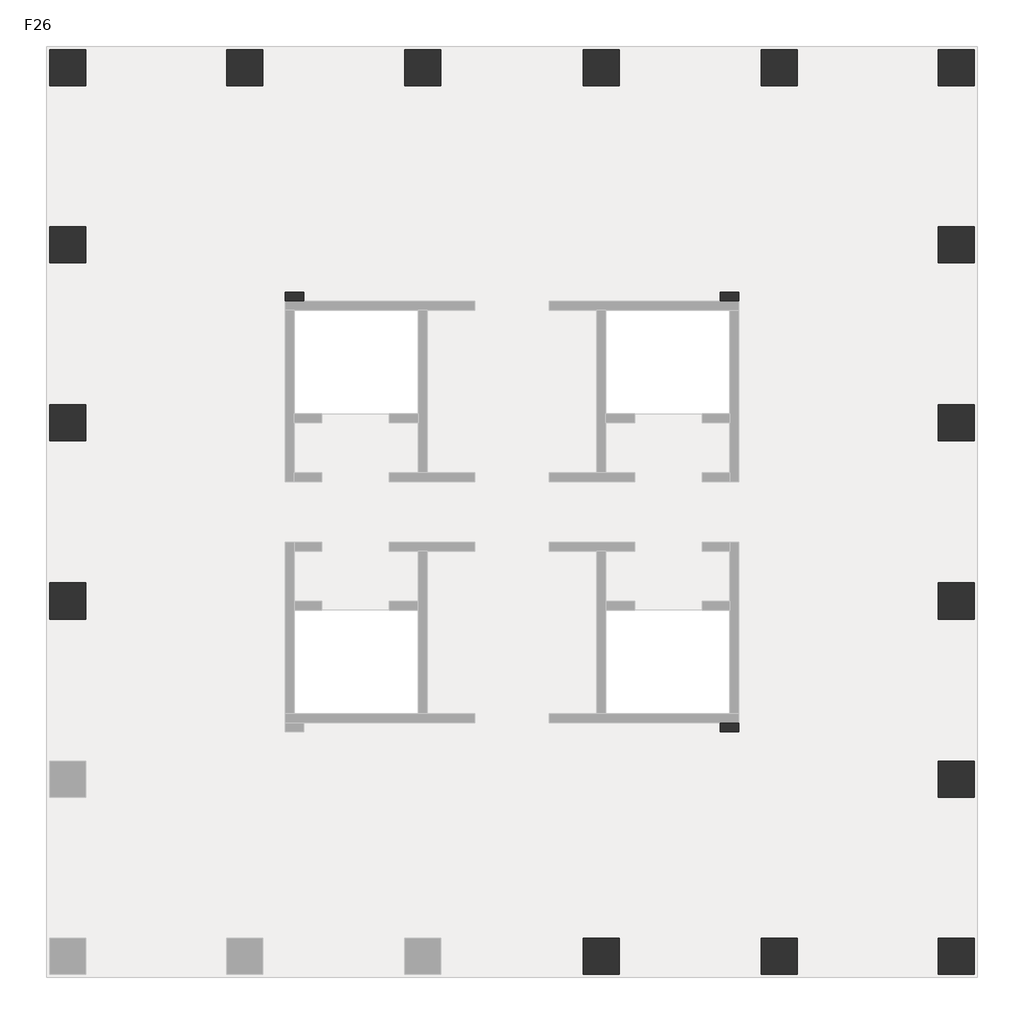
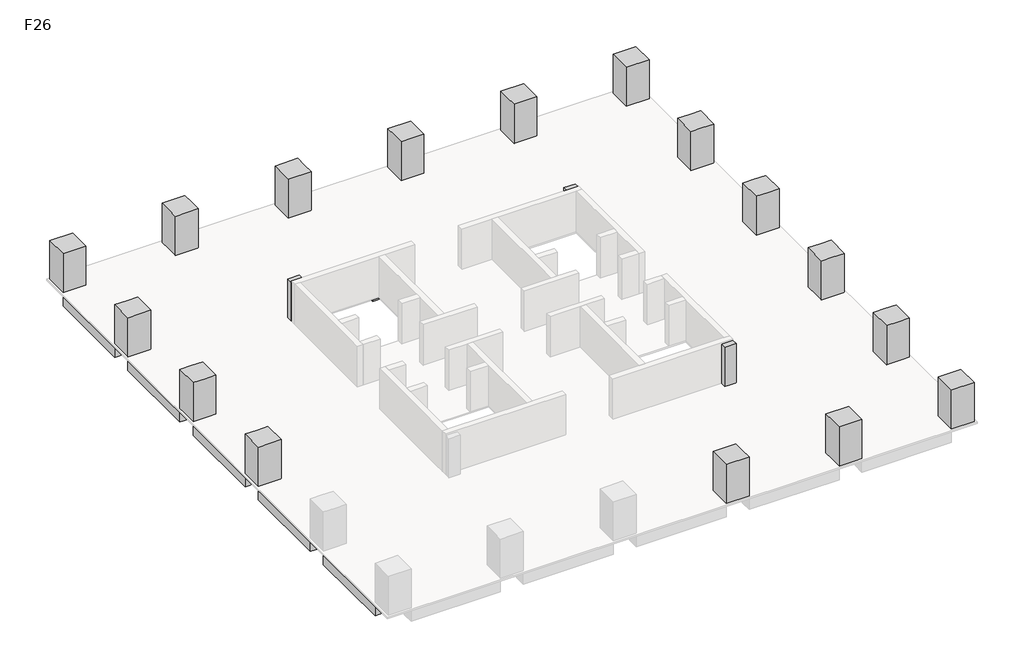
# One storey, part 2 of 2: 19 columns, 17 beams.
"""IFC4 building model written with IfcOpenShell, lengths in millimetres."""

from ifc_helpers import new_model, si_unit, frame, origin, place, context, project, spatial, polyline, outline, extrude, faceted_brep, element, save

model = new_model("IFC4")

# Units and contexts
model_context = context("Model", 3, world=origin())
ifc_project = project(units=[si_unit("LENGTHUNIT", "METRE", prefix="MILLI")], contexts=[model_context])

# Site, building, storey
site = spatial("IfcSite", under=ifc_project)
building = spatial("IfcBuilding", under=site)
storey = spatial("IfcBuildingStorey", under=building, Name="F26", Elevation=96000.0)

# Beams
placement = place(None, origin())
element("IfcBeam", 1, ObjectType="混凝土 - 矩形梁 : KL(5)-800x1000", at=placement, inside=storey, context=model_context, shape_type="SweptSolid", body=[
    extrude(outline(polyline([(25327.3257831, 27051.0498658), (25327.3257831, 26251.0498658), (19077.3257831, 26251.0498658), (19077.3257831, 27051.0498658), (25327.3257831, 27051.0498658)])), frame((0.0, 0.0, 95000.0), z_axis=(0.0, 0.0, 1.0), x_axis=(1.0, 0.0, 0.0)), (0.0, 0.0, 1.0), 900.0),
    extrude(outline(polyline([(-12472.6742169, 26251.0498658), (-12472.6742169, 27051.0498658), (-6222.6742169, 27051.0498658), (-6222.6742169, 26251.0498658), (-12472.6742169, 26251.0498658)])), frame((0.0, 0.0, 95000.0), z_axis=(0.0, 0.0, 1.0), x_axis=(1.0, 0.0, 0.0)), (0.0, 0.0, 1.0), 900.0),
    extrude(outline(polyline([(-4622.6742169, 26251.0498658), (-4622.6742169, 27051.0498658), (1677.3257831, 27051.0498658), (1677.3257831, 26251.0498658), (-4622.6742169, 26251.0498658)])), frame((0.0, 0.0, 95000.0), z_axis=(0.0, 0.0, 1.0), x_axis=(1.0, 0.0, 0.0)), (0.0, 0.0, 1.0), 900.0),
    extrude(outline(polyline([(3277.3257831, 26251.0498658), (3277.3257831, 27051.0498658), (9577.3257831, 27051.0498658), (9577.3257831, 26251.0498658), (3277.3257831, 26251.0498658)])), frame((0.0, 0.0, 95000.0), z_axis=(0.0, 0.0, 1.0), x_axis=(1.0, 0.0, 0.0)), (0.0, 0.0, 1.0), 900.0),
    extrude(outline(polyline([(11177.3257831, 26251.0498658), (11177.3257831, 27051.0498658), (17477.3257831, 27051.0498658), (17477.3257831, 26251.0498658), (11177.3257831, 26251.0498658)])), frame((0.0, 0.0, 95000.0), z_axis=(0.0, 0.0, 1.0), x_axis=(1.0, 0.0, 0.0)), (0.0, 0.0, 1.0), 900.0),
])
element("IfcBeam", 2, ObjectType="混凝土 - 矩形梁 : KL(5)-800x1000", at=placement, inside=storey, context=model_context, shape_type="SweptSolid", body=[
    extrude(outline(polyline([(26927.3257831, -12348.9501342), (26127.3257831, -12348.9501342), (26127.3257831, -6098.9501342), (26927.3257831, -6098.9501342), (26927.3257831, -12348.9501342)])), frame((0.0, 0.0, 95000.0), z_axis=(0.0, 0.0, 1.0), x_axis=(1.0, 0.0, 0.0)), (0.0, 0.0, 1.0), 900.0),
    extrude(outline(polyline([(26127.3257831, 25451.0498658), (26927.3257831, 25451.0498658), (26927.3257831, 19201.0498658), (26127.3257831, 19201.0498658), (26127.3257831, 25451.0498658)])), frame((0.0, 0.0, 95000.0), z_axis=(0.0, 0.0, 1.0), x_axis=(1.0, 0.0, 0.0)), (0.0, 0.0, 1.0), 900.0),
    extrude(outline(polyline([(26127.3257831, 17601.0498658), (26927.3257831, 17601.0498658), (26927.3257831, 11301.0498658), (26127.3257831, 11301.0498658), (26127.3257831, 17601.0498658)])), frame((0.0, 0.0, 95000.0), z_axis=(0.0, 0.0, 1.0), x_axis=(1.0, 0.0, 0.0)), (0.0, 0.0, 1.0), 900.0),
    extrude(outline(polyline([(26127.3257831, 9701.0498658), (26927.3257831, 9701.0498658), (26927.3257831, 3401.0498658), (26127.3257831, 3401.0498658), (26127.3257831, 9701.0498658)])), frame((0.0, 0.0, 95000.0), z_axis=(0.0, 0.0, 1.0), x_axis=(1.0, 0.0, 0.0)), (0.0, 0.0, 1.0), 900.0),
    extrude(outline(polyline([(26127.3257831, 1801.0498658), (26927.3257831, 1801.0498658), (26927.3257831, -4498.9501342), (26127.3257831, -4498.9501342), (26127.3257831, 1801.0498658)])), frame((0.0, 0.0, 95000.0), z_axis=(0.0, 0.0, 1.0), x_axis=(1.0, 0.0, 0.0)), (0.0, 0.0, 1.0), 900.0),
])
element("IfcBeam", 3, ObjectType="混凝土 - 矩形梁 : KL(5)-800x1000", at=placement, inside=storey, context=model_context, shape_type="SweptSolid", body=[
    extrude(outline(polyline([(-14072.6742169, 25451.0498658), (-13272.6742169, 25451.0498658), (-13272.6742169, 19201.0498658), (-14072.6742169, 19201.0498658), (-14072.6742169, 25451.0498658)])), frame((0.0, 0.0, 95000.0), z_axis=(0.0, 0.0, 1.0), x_axis=(1.0, 0.0, 0.0)), (0.0, 0.0, 1.0), 900.0),
    extrude(outline(polyline([(-13272.6742169, -12348.9501342), (-14072.6742169, -12348.9501342), (-14072.6742169, -6098.9501342), (-13272.6742169, -6098.9501342), (-13272.6742169, -12348.9501342)])), frame((0.0, 0.0, 95000.0), z_axis=(0.0, 0.0, 1.0), x_axis=(1.0, 0.0, 0.0)), (0.0, 0.0, 1.0), 900.0),
    extrude(outline(polyline([(-14072.6742169, 17601.0498658), (-13272.6742169, 17601.0498658), (-13272.6742169, 11301.0498658), (-14072.6742169, 11301.0498658), (-14072.6742169, 17601.0498658)])), frame((0.0, 0.0, 95000.0), z_axis=(0.0, 0.0, 1.0), x_axis=(1.0, 0.0, 0.0)), (0.0, 0.0, 1.0), 900.0),
    extrude(outline(polyline([(-14072.6742169, 9701.0498658), (-13272.6742169, 9701.0498658), (-13272.6742169, 3401.0498658), (-14072.6742169, 3401.0498658), (-14072.6742169, 9701.0498658)])), frame((0.0, 0.0, 95000.0), z_axis=(0.0, 0.0, 1.0), x_axis=(1.0, 0.0, 0.0)), (0.0, 0.0, 1.0), 900.0),
    extrude(outline(polyline([(-14072.6742169, 1801.0498658), (-13272.6742169, 1801.0498658), (-13272.6742169, -4498.9501342), (-14072.6742169, -4498.9501342), (-14072.6742169, 1801.0498658)])), frame((0.0, 0.0, 95000.0), z_axis=(0.0, 0.0, 1.0), x_axis=(1.0, 0.0, 0.0)), (0.0, 0.0, 1.0), 900.0),
])
element("IfcBeam", 4, ObjectType="混凝土 - 矩形梁 : L1-800x500", at=placement, inside=storey, context=model_context, shape_type="SweptSolid", body=[
    extrude(outline(polyline([(-12472.6742169, 2201.0498658), (-12472.6742169, 3001.0498658), (-3622.6742169, 3001.0498658), (-3622.6742169, 2201.0498658), (-12472.6742169, 2201.0498658)])), frame((0.0, 0.0, 95500.0), z_axis=(0.0, 0.0, 1.0), x_axis=(1.0, 0.0, 0.0)), (0.0, 0.0, 1.0), 400.0),
])
element("IfcBeam", 5, ObjectType="混凝土 - 矩形梁 : L1-800x500", at=placement, inside=storey, context=model_context, shape_type="SweptSolid", body=[
    extrude(outline(polyline([(-12472.6742169, 10101.0498658), (-12472.6742169, 10901.0498658), (-3622.6742169, 10901.0498658), (-3622.6742169, 10101.0498658), (-12472.6742169, 10101.0498658)])), frame((0.0, 0.0, 95500.0), z_axis=(0.0, 0.0, 1.0), x_axis=(1.0, 0.0, 0.0)), (0.0, 0.0, 1.0), 400.0),
])
element("IfcBeam", 6, ObjectType="混凝土 - 矩形梁 : L1-800x500", at=placement, inside=storey, context=model_context, shape_type="Brep", body=[
    faceted_brep([(-12472.6742169, 17789.85471, 95500.0), (-3622.6742169, 15588.3621727, 95500.0), (-3622.6742169, 15588.3621727, 95900.0), (-12472.6742169, 17789.85471, 95900.0), (-3173.6696907, 16301.0498658, 95500.0), (-3622.6742169, 16301.0498658, 95500.0), (-3622.6742169, 15901.0498658, 95500.0), (-12472.6742169, 18614.2350714, 95500.0), (-3746.9473979, 16443.6562607, 95500.0), (-12472.6742169, 18614.2350714, 95900.0), (-3746.9473979, 16443.6562607, 95900.0), (-3173.6696907, 16301.0498658, 95900.0), (-3622.6742169, 16301.0498658, 95900.0)], [[[0, 1, 2, 3]], [[4, 5, 6, 1, 0, 7, 8]], [[4, 8, 7, 9, 10, 11]], [[6, 5, 12, 2, 1]], [[5, 4, 11, 12]], [[7, 0, 3, 9]], [[3, 2, 12, 11, 10, 9]]]),
])
element("IfcBeam", 7, ObjectType="混凝土 - 矩形梁 : L1-800x500", at=placement, inside=storey, context=model_context, shape_type="SweptSolid", body=[
    extrude(outline(polyline([(-3173.6696907, 16301.0498658), (-3746.9473979, 16443.6562607), (-5661.5624638, 25451.0498658), (-4843.6893517, 25451.0498658), (-2898.7618154, 16301.0498658), (-3173.6696907, 16301.0498658)])), frame((0.0, 0.0, 95500.0), z_axis=(0.0, 0.0, 1.0), x_axis=(1.0, 0.0, 0.0)), (0.0, 0.0, 1.0), 400.0),
])
element("IfcBeam", 8, ObjectType="混凝土 - 矩形梁 : L1-800x500", at=placement, inside=storey, context=model_context, shape_type="SweptSolid", body=[
    extrude(outline(polyline([(2077.3257831, 25451.0498658), (2877.3257831, 25451.0498658), (2877.3257831, 15901.0498658), (2077.3257831, 15901.0498658), (2077.3257831, 25451.0498658)])), frame((0.0, 0.0, 95500.0), z_axis=(0.0, 0.0, 1.0), x_axis=(1.0, 0.0, 0.0)), (0.0, 0.0, 1.0), 400.0),
])
element("IfcBeam", 9, ObjectType="混凝土 - 矩形梁 : L1-800x500", at=placement, inside=storey, context=model_context, shape_type="SweptSolid", body=[
    extrude(outline(polyline([(9977.3257831, 25451.0498658), (10777.3257831, 25451.0498658), (10777.3257831, 15901.0498658), (9977.3257831, 15901.0498658), (9977.3257831, 25451.0498658)])), frame((0.0, 0.0, 95500.0), z_axis=(0.0, 0.0, 1.0), x_axis=(1.0, 0.0, 0.0)), (0.0, 0.0, 1.0), 400.0),
])
element("IfcBeam", 10, ObjectType="混凝土 - 矩形梁 : L1-800x500", at=placement, inside=storey, context=model_context, shape_type="SweptSolid", body=[
    extrude(outline(polyline([(2877.3257831, -12348.9501342), (2077.3257831, -12348.9501342), (2077.3257831, -2798.9501342), (2877.3257831, -2798.9501342), (2877.3257831, -12348.9501342)])), frame((0.0, 0.0, 95500.0), z_axis=(0.0, 0.0, 1.0), x_axis=(1.0, 0.0, 0.0)), (0.0, 0.0, 1.0), 400.0),
])
element("IfcBeam", 11, ObjectType="混凝土 - 矩形梁 : L1-800x500", at=placement, inside=storey, context=model_context, shape_type="SweptSolid", body=[
    extrude(outline(polyline([(10777.3257831, -12348.9501342), (9977.3257831, -12348.9501342), (9977.3257831, -2798.9501342), (10777.3257831, -2798.9501342), (10777.3257831, -12348.9501342)])), frame((0.0, 0.0, 95500.0), z_axis=(0.0, 0.0, 1.0), x_axis=(1.0, 0.0, 0.0)), (0.0, 0.0, 1.0), 400.0),
])
element("IfcBeam", 12, ObjectType="混凝土 - 矩形梁 : L1-800x500", at=placement, inside=storey, context=model_context, shape_type="Brep", body=[
    faceted_brep([(25327.3257831, -4687.7549784, 95500.0), (16477.3257831, -2486.2624411, 95500.0), (16477.3257831, -2486.2624411, 95900.0), (25327.3257831, -4687.7549784, 95900.0), (16028.3212569, -3198.9501342, 95500.0), (16477.3257831, -3198.9501342, 95500.0), (16477.3257831, -2798.9501342, 95500.0), (25327.3257831, -5512.1353397, 95500.0), (16601.5989641, -3341.556529, 95500.0), (25327.3257831, -5512.1353397, 95900.0), (16601.5989641, -3341.556529, 95900.0), (16028.3212569, -3198.9501342, 95900.0), (16477.3257831, -3198.9501342, 95900.0)], [[[0, 1, 2, 3]], [[4, 5, 6, 1, 0, 7, 8]], [[4, 8, 7, 9, 10, 11]], [[6, 5, 12, 2, 1]], [[5, 4, 11, 12]], [[7, 0, 3, 9]], [[3, 2, 12, 11, 10, 9]]]),
])
element("IfcBeam", 13, ObjectType="混凝土 - 矩形梁 : L1-800x500", at=placement, inside=storey, context=model_context, shape_type="SweptSolid", body=[
    extrude(outline(polyline([(16028.3212569, -3198.9501342), (16601.5989641, -3341.556529), (18516.21403, -12348.9501342), (17698.3409179, -12348.9501342), (15753.4133817, -3198.9501342), (16028.3212569, -3198.9501342)])), frame((0.0, 0.0, 95500.0), z_axis=(0.0, 0.0, 1.0), x_axis=(1.0, 0.0, 0.0)), (0.0, 0.0, 1.0), 400.0),
])
element("IfcBeam", 14, ObjectType="混凝土 - 矩形梁 : L1-800x500", at=placement, inside=storey, context=model_context, shape_type="SweptSolid", body=[
    extrude(outline(polyline([(25327.3257831, 3001.0498658), (25327.3257831, 2201.0498658), (16477.3257831, 2201.0498658), (16477.3257831, 3001.0498658), (25327.3257831, 3001.0498658)])), frame((0.0, 0.0, 95500.0), z_axis=(0.0, 0.0, 1.0), x_axis=(1.0, 0.0, 0.0)), (0.0, 0.0, 1.0), 400.0),
])
element("IfcBeam", 15, ObjectType="混凝土 - 矩形梁 : L1-800x500", at=placement, inside=storey, context=model_context, shape_type="SweptSolid", body=[
    extrude(outline(polyline([(25327.3257831, 10901.0498658), (25327.3257831, 10101.0498658), (16477.3257831, 10101.0498658), (16477.3257831, 10901.0498658), (25327.3257831, 10901.0498658)])), frame((0.0, 0.0, 95500.0), z_axis=(0.0, 0.0, 1.0), x_axis=(1.0, 0.0, 0.0)), (0.0, 0.0, 1.0), 400.0),
])
element("IfcBeam", 16, ObjectType="混凝土 - 矩形梁 : L1-800x500", at=placement, inside=storey, context=model_context, shape_type="Brep", body=[
    faceted_brep([(25327.3257831, 18610.6867312, 95500.0), (16590.8993897, 16393.3196262, 95500.0), (16227.3565337, 16301.0498658, 95500.0), (16227.3565337, 16301.0498658, 95900.0), (16590.8993897, 16393.3196262, 95900.0), (25327.3257831, 18610.6867312, 95900.0), (16477.3257831, 16301.0498658, 95500.0), (25327.3257831, 17785.3216299, 95500.0), (16477.3257831, 15539.1287365, 95500.0), (16477.3257831, 15901.0498658, 95500.0), (25327.3257831, 17785.3216299, 95900.0), (16477.3257831, 15539.1287365, 95900.0), (16477.3257831, 16301.0498658, 95900.0)], [[[0, 1, 2, 3, 4, 5]], [[6, 2, 1, 0, 7, 8, 9]], [[8, 7, 10, 11]], [[9, 8, 11, 12, 6]], [[2, 6, 12, 3]], [[7, 0, 5, 10]], [[5, 4, 3, 12, 11, 10]]]),
])
element("IfcBeam", 17, ObjectType="混凝土 - 矩形梁 : L1-800x500", at=placement, inside=storey, context=model_context, shape_type="SweptSolid", body=[
    extrude(outline(polyline([(16590.8993897, 16393.3196262), (16227.3565337, 16301.0498658), (15753.4133817, 16301.0498658), (17698.3409179, 25451.0498658), (18516.21403, 25451.0498658), (16590.8993897, 16393.3196262)])), frame((0.0, 0.0, 95500.0), z_axis=(0.0, 0.0, 1.0), x_axis=(1.0, 0.0, 0.0)), (0.0, 0.0, 1.0), 400.0),
])

# Columns
element("IfcColumn", 18, ObjectType="混凝土 - 矩形 - 柱 : Z1-1600x1600", at=placement, inside=storey, context=model_context, shape_type="SweptSolid", body=[
    extrude(outline(polyline([(-12472.6742169, 27051.0498658), (-12472.6742169, 25451.0498658), (-14072.6742169, 25451.0498658), (-14072.6742169, 27051.0498658), (-12472.6742169, 27051.0498658)])), frame((0.0, 0.0, 96000.0), z_axis=(0.0, 0.0, 1.0), x_axis=(1.0, 0.0, 0.0)), (0.0, 0.0, 1.0), 2900.0),
])
element("IfcColumn", 19, ObjectType="混凝土 - 矩形 - 柱 : Z1-1600x1600", at=placement, inside=storey, context=model_context, shape_type="Brep", body=[
    faceted_brep([(-4622.6742169, 27051.0498658, 96000.0), (-4622.6742169, 25451.0498658, 96000.0), (-6222.6742169, 25451.0498658, 96000.0), (-6222.6742169, 27051.0498658, 96000.0), (-4622.6742169, 27051.0498658, 98000.0), (-4622.6742169, 27051.0498658, 98900.0), (-4622.6742169, 26251.0498658, 98900.0), (-4622.6742169, 25451.0498658, 98900.0), (-6222.6742169, 25451.0498658, 98900.0), (-6222.6742169, 26251.0498658, 98900.0), (-6222.6742169, 27051.0498658, 98900.0), (-6222.6742169, 27051.0498658, 98000.0)], [[[0, 1, 2, 3]], [[1, 0, 4, 5, 6, 7]], [[2, 1, 7, 8]], [[3, 2, 8, 9, 10, 11]], [[0, 3, 11, 10, 5, 4]], [[7, 6, 5, 10, 9, 8]]]),
])
element("IfcColumn", 20, ObjectType="混凝土 - 矩形 - 柱 : Z1-1600x1600", at=placement, inside=storey, context=model_context, shape_type="Brep", body=[
    faceted_brep([(-12472.6742169, 19201.0498658, 96000.0), (-12472.6742169, 17601.0498658, 96000.0), (-14072.6742169, 17601.0498658, 96000.0), (-14072.6742169, 19201.0498658, 96000.0), (-12472.6742169, 19201.0498658, 98900.0), (-12472.6742169, 17601.0498658, 98900.0), (-13272.6742169, 17601.0498658, 98900.0), (-14072.6742169, 17601.0498658, 98900.0), (-14072.6742169, 17601.0498658, 98000.0), (-14072.6742169, 19201.0498658, 98900.0), (-14072.6742169, 19201.0498658, 98000.0), (-13272.6742169, 19201.0498658, 98900.0)], [[[0, 1, 2, 3]], [[1, 0, 4, 5]], [[2, 1, 5, 6, 7, 8]], [[3, 2, 8, 7, 9, 10]], [[0, 3, 10, 9, 11, 4]], [[5, 4, 11, 9, 7, 6]]]),
])
element("IfcColumn", 21, ObjectType="混凝土 - 矩形 - 柱 : Z1-1600x1600", at=placement, inside=storey, context=model_context, shape_type="Brep", body=[
    faceted_brep([(-12472.6742169, 11301.0498658, 96000.0), (-12472.6742169, 9701.0498658, 96000.0), (-14072.6742169, 9701.0498658, 96000.0), (-14072.6742169, 11301.0498658, 96000.0), (-12472.6742169, 11301.0498658, 98900.0), (-12472.6742169, 9701.0498658, 98900.0), (-13272.6742169, 9701.0498658, 98900.0), (-14072.6742169, 9701.0498658, 98900.0), (-14072.6742169, 9701.0498658, 98000.0), (-14072.6742169, 11301.0498658, 98900.0), (-14072.6742169, 11301.0498658, 98000.0), (-13272.6742169, 11301.0498658, 98900.0)], [[[0, 1, 2, 3]], [[1, 0, 4, 5]], [[2, 1, 5, 6, 7, 8]], [[3, 2, 8, 7, 9, 10]], [[0, 3, 10, 9, 11, 4]], [[5, 4, 11, 9, 7, 6]]]),
])
element("IfcColumn", 22, ObjectType="混凝土 - 矩形 - 柱 : Z1-1600x1600", at=placement, inside=storey, context=model_context, shape_type="Brep", body=[
    faceted_brep([(-12472.6742169, 3401.0498658, 96000.0), (-12472.6742169, 1801.0498658, 96000.0), (-14072.6742169, 1801.0498658, 96000.0), (-14072.6742169, 3401.0498658, 96000.0), (-12472.6742169, 3401.0498658, 98900.0), (-12472.6742169, 1801.0498658, 98900.0), (-13272.6742169, 1801.0498658, 98900.0), (-14072.6742169, 1801.0498658, 98900.0), (-14072.6742169, 1801.0498658, 98000.0), (-14072.6742169, 3401.0498658, 98900.0), (-14072.6742169, 3401.0498658, 98000.0), (-13272.6742169, 3401.0498658, 98900.0)], [[[0, 1, 2, 3]], [[1, 0, 4, 5]], [[2, 1, 5, 6, 7, 8]], [[3, 2, 8, 7, 9, 10]], [[0, 3, 10, 9, 11, 4]], [[5, 4, 11, 9, 7, 6]]]),
])
element("IfcColumn", 23, ObjectType="混凝土 - 矩形 - 柱 : Z1-1600x1600", at=placement, inside=storey, context=model_context, shape_type="SweptSolid", body=[
    extrude(outline(polyline([(25327.3257831, 27051.0498658), (26927.3257831, 27051.0498658), (26927.3257831, 25451.0498658), (25327.3257831, 25451.0498658), (25327.3257831, 27051.0498658)])), frame((0.0, 0.0, 96000.0), z_axis=(0.0, 0.0, 1.0), x_axis=(1.0, 0.0, 0.0)), (0.0, 0.0, 1.0), 2900.0),
])
element("IfcColumn", 24, ObjectType="混凝土 - 矩形 - 柱 : Z1-1600x1600", at=placement, inside=storey, context=model_context, shape_type="Brep", body=[
    faceted_brep([(25327.3257831, 19201.0498658, 96000.0), (26927.3257831, 19201.0498658, 96000.0), (26927.3257831, 17601.0498658, 96000.0), (25327.3257831, 17601.0498658, 96000.0), (25327.3257831, 17601.0498658, 98900.0), (25327.3257831, 19201.0498658, 98900.0), (26927.3257831, 17601.0498658, 98000.0), (26927.3257831, 17601.0498658, 98900.0), (26127.3257831, 17601.0498658, 98900.0), (26927.3257831, 19201.0498658, 98000.0), (26927.3257831, 19201.0498658, 98900.0), (26127.3257831, 19201.0498658, 98900.0)], [[[0, 1, 2, 3]], [[0, 3, 4, 5]], [[3, 2, 6, 7, 8, 4]], [[2, 1, 9, 10, 7, 6]], [[1, 0, 5, 11, 10, 9]], [[5, 4, 8, 7, 10, 11]]]),
])
element("IfcColumn", 25, ObjectType="混凝土 - 矩形 - 柱 : Z1-1600x1600", at=placement, inside=storey, context=model_context, shape_type="Brep", body=[
    faceted_brep([(25327.3257831, 11301.0498658, 96000.0), (26927.3257831, 11301.0498658, 96000.0), (26927.3257831, 9701.0498658, 96000.0), (25327.3257831, 9701.0498658, 96000.0), (25327.3257831, 9701.0498658, 98900.0), (25327.3257831, 11301.0498658, 98900.0), (26927.3257831, 9701.0498658, 98000.0), (26927.3257831, 9701.0498658, 98900.0), (26127.3257831, 9701.0498658, 98900.0), (26927.3257831, 11301.0498658, 98000.0), (26927.3257831, 11301.0498658, 98900.0), (26127.3257831, 11301.0498658, 98900.0)], [[[0, 1, 2, 3]], [[0, 3, 4, 5]], [[3, 2, 6, 7, 8, 4]], [[2, 1, 9, 10, 7, 6]], [[1, 0, 5, 11, 10, 9]], [[5, 4, 8, 7, 10, 11]]]),
])
element("IfcColumn", 26, ObjectType="混凝土 - 矩形 - 柱 : Z1-1600x1600", at=placement, inside=storey, context=model_context, shape_type="Brep", body=[
    faceted_brep([(25327.3257831, 3401.0498658, 96000.0), (26927.3257831, 3401.0498658, 96000.0), (26927.3257831, 1801.0498658, 96000.0), (25327.3257831, 1801.0498658, 96000.0), (25327.3257831, 1801.0498658, 98900.0), (25327.3257831, 3401.0498658, 98900.0), (26927.3257831, 1801.0498658, 98000.0), (26927.3257831, 1801.0498658, 98900.0), (26127.3257831, 1801.0498658, 98900.0), (26927.3257831, 3401.0498658, 98000.0), (26927.3257831, 3401.0498658, 98900.0), (26127.3257831, 3401.0498658, 98900.0)], [[[0, 1, 2, 3]], [[0, 3, 4, 5]], [[3, 2, 6, 7, 8, 4]], [[2, 1, 9, 10, 7, 6]], [[1, 0, 5, 11, 10, 9]], [[5, 4, 8, 7, 10, 11]]]),
])
element("IfcColumn", 27, ObjectType="混凝土 - 矩形 - 柱 : Z1-1600x1600", at=placement, inside=storey, context=model_context, shape_type="Brep", body=[
    faceted_brep([(25327.3257831, -4498.9501342, 96000.0), (26927.3257831, -4498.9501342, 96000.0), (26927.3257831, -6098.9501342, 96000.0), (25327.3257831, -6098.9501342, 96000.0), (25327.3257831, -6098.9501342, 98900.0), (25327.3257831, -4498.9501342, 98900.0), (26927.3257831, -6098.9501342, 98000.0), (26927.3257831, -6098.9501342, 98900.0), (26127.3257831, -6098.9501342, 98900.0), (26927.3257831, -4498.9501342, 98000.0), (26927.3257831, -4498.9501342, 98900.0), (26127.3257831, -4498.9501342, 98900.0)], [[[0, 1, 2, 3]], [[0, 3, 4, 5]], [[3, 2, 6, 7, 8, 4]], [[2, 1, 9, 10, 7, 6]], [[1, 0, 5, 11, 10, 9]], [[5, 4, 8, 7, 10, 11]]]),
])
element("IfcColumn", 28, ObjectType="混凝土 - 矩形 - 柱 : Z1-1600x1600", at=placement, inside=storey, context=model_context, shape_type="SweptSolid", body=[
    extrude(outline(polyline([(25327.3257831, -12348.9501342), (26927.3257831, -12348.9501342), (26927.3257831, -13948.9501342), (25327.3257831, -13948.9501342), (25327.3257831, -12348.9501342)])), frame((0.0, 0.0, 96000.0), z_axis=(0.0, 0.0, 1.0), x_axis=(1.0, 0.0, 0.0)), (0.0, 0.0, 1.0), 2900.0),
])
element("IfcColumn", 29, ObjectType="混凝土 - 矩形 - 柱 : Z1-1600x1600", at=placement, inside=storey, context=model_context, shape_type="Brep", body=[
    faceted_brep([(3277.3257831, 27051.0498658, 96000.0), (3277.3257831, 25451.0498658, 96000.0), (1677.3257831, 25451.0498658, 96000.0), (1677.3257831, 27051.0498658, 96000.0), (3277.3257831, 27051.0498658, 98000.0), (3277.3257831, 27051.0498658, 98900.0), (3277.3257831, 26251.0498658, 98900.0), (3277.3257831, 25451.0498658, 98900.0), (1677.3257831, 25451.0498658, 98900.0), (1677.3257831, 26251.0498658, 98900.0), (1677.3257831, 27051.0498658, 98900.0), (1677.3257831, 27051.0498658, 98000.0)], [[[0, 1, 2, 3]], [[1, 0, 4, 5, 6, 7]], [[2, 1, 7, 8]], [[3, 2, 8, 9, 10, 11]], [[0, 3, 11, 10, 5, 4]], [[7, 6, 5, 10, 9, 8]]]),
])
element("IfcColumn", 30, ObjectType="混凝土 - 矩形 - 柱 : Z1-1600x1600", at=placement, inside=storey, context=model_context, shape_type="Brep", body=[
    faceted_brep([(11177.3257831, 27051.0498658, 96000.0), (11177.3257831, 25451.0498658, 96000.0), (9577.3257831, 25451.0498658, 96000.0), (9577.3257831, 27051.0498658, 96000.0), (11177.3257831, 27051.0498658, 98000.0), (11177.3257831, 27051.0498658, 98900.0), (11177.3257831, 26251.0498658, 98900.0), (11177.3257831, 25451.0498658, 98900.0), (9577.3257831, 25451.0498658, 98900.0), (9577.3257831, 26251.0498658, 98900.0), (9577.3257831, 27051.0498658, 98900.0), (9577.3257831, 27051.0498658, 98000.0)], [[[0, 1, 2, 3]], [[1, 0, 4, 5, 6, 7]], [[2, 1, 7, 8]], [[3, 2, 8, 9, 10, 11]], [[0, 3, 11, 10, 5, 4]], [[7, 6, 5, 10, 9, 8]]]),
])
element("IfcColumn", 31, ObjectType="混凝土 - 矩形 - 柱 : Z1-1600x1600", at=placement, inside=storey, context=model_context, shape_type="Brep", body=[
    faceted_brep([(19077.3257831, 27051.0498658, 96000.0), (19077.3257831, 25451.0498658, 96000.0), (17477.3257831, 25451.0498658, 96000.0), (17477.3257831, 27051.0498658, 96000.0), (19077.3257831, 27051.0498658, 98000.0), (19077.3257831, 27051.0498658, 98900.0), (19077.3257831, 26251.0498658, 98900.0), (19077.3257831, 25451.0498658, 98900.0), (17477.3257831, 25451.0498658, 98900.0), (17477.3257831, 26251.0498658, 98900.0), (17477.3257831, 27051.0498658, 98900.0), (17477.3257831, 27051.0498658, 98000.0)], [[[0, 1, 2, 3]], [[1, 0, 4, 5, 6, 7]], [[2, 1, 7, 8]], [[3, 2, 8, 9, 10, 11]], [[0, 3, 11, 10, 5, 4]], [[7, 6, 5, 10, 9, 8]]]),
])
element("IfcColumn", 32, ObjectType="混凝土 - 矩形 - 柱 : Z1-1600x1600", at=placement, inside=storey, context=model_context, shape_type="Brep", body=[
    faceted_brep([(11177.3257831, -12348.9501342, 96000.0), (11177.3257831, -13948.9501342, 96000.0), (9577.3257831, -13948.9501342, 96000.0), (9577.3257831, -12348.9501342, 96000.0), (11177.3257831, -12348.9501342, 98900.0), (11177.3257831, -13148.9501342, 98900.0), (11177.3257831, -13948.9501342, 98900.0), (11177.3257831, -13948.9501342, 98000.0), (9577.3257831, -13948.9501342, 98900.0), (9577.3257831, -13948.9501342, 98000.0), (9577.3257831, -13148.9501342, 98900.0), (9577.3257831, -12348.9501342, 98900.0)], [[[0, 1, 2, 3]], [[1, 0, 4, 5, 6, 7]], [[2, 1, 7, 6, 8, 9]], [[3, 2, 9, 8, 10, 11]], [[0, 3, 11, 4]], [[6, 5, 4, 11, 10, 8]]]),
])
element("IfcColumn", 33, ObjectType="混凝土 - 矩形 - 柱 : Z1-1600x1600", at=placement, inside=storey, context=model_context, shape_type="Brep", body=[
    faceted_brep([(19077.3257831, -12348.9501342, 96000.0), (19077.3257831, -13948.9501342, 96000.0), (17477.3257831, -13948.9501342, 96000.0), (17477.3257831, -12348.9501342, 96000.0), (19077.3257831, -12348.9501342, 98900.0), (19077.3257831, -13148.9501342, 98900.0), (19077.3257831, -13948.9501342, 98900.0), (19077.3257831, -13948.9501342, 98000.0), (17477.3257831, -13948.9501342, 98900.0), (17477.3257831, -13948.9501342, 98000.0), (17477.3257831, -13148.9501342, 98900.0), (17477.3257831, -12348.9501342, 98900.0)], [[[0, 1, 2, 3]], [[1, 0, 4, 5, 6, 7]], [[2, 1, 7, 6, 8, 9]], [[3, 2, 9, 8, 10, 11]], [[0, 3, 11, 4]], [[6, 5, 4, 11, 10, 8]]]),
])
element("IfcColumn", 34, ObjectType="混凝土 - 矩形 - 柱 : Z2-800x800", at=placement, inside=storey, context=model_context, shape_type="SweptSolid", body=[
    extrude(outline(polyline([(-3622.6742169, 16301.0498658), (-2822.6742169, 16301.0498658), (-2822.6742169, 15901.0498658), (-3622.6742169, 15901.0498658), (-3622.6742169, 16301.0498658)])), frame((0.0, 0.0, 96000.0), z_axis=(0.0, 0.0, 1.0), x_axis=(1.0, 0.0, 0.0)), (0.0, 0.0, 1.0), 2900.0),
])
element("IfcColumn", 35, ObjectType="混凝土 - 矩形 - 柱 : Z2-800x800", at=placement, inside=storey, context=model_context, shape_type="SweptSolid", body=[
    extrude(outline(polyline([(16477.3257831, -3198.9501342), (15677.3257831, -3198.9501342), (15677.3257831, -2798.9501342), (16477.3257831, -2798.9501342), (16477.3257831, -3198.9501342)])), frame((0.0, 0.0, 96000.0), z_axis=(0.0, 0.0, 1.0), x_axis=(1.0, 0.0, 0.0)), (0.0, 0.0, 1.0), 2900.0),
])
element("IfcColumn", 36, ObjectType="混凝土 - 矩形 - 柱 : Z2-800x800", at=placement, inside=storey, context=model_context, shape_type="SweptSolid", body=[
    extrude(outline(polyline([(15677.3257831, 16301.0498658), (16477.3257831, 16301.0498658), (16477.3257831, 15901.0498658), (15677.3257831, 15901.0498658), (15677.3257831, 16301.0498658)])), frame((0.0, 0.0, 96000.0), z_axis=(0.0, 0.0, 1.0), x_axis=(1.0, 0.0, 0.0)), (0.0, 0.0, 1.0), 2900.0),
])

save(model, "model.ifc")
